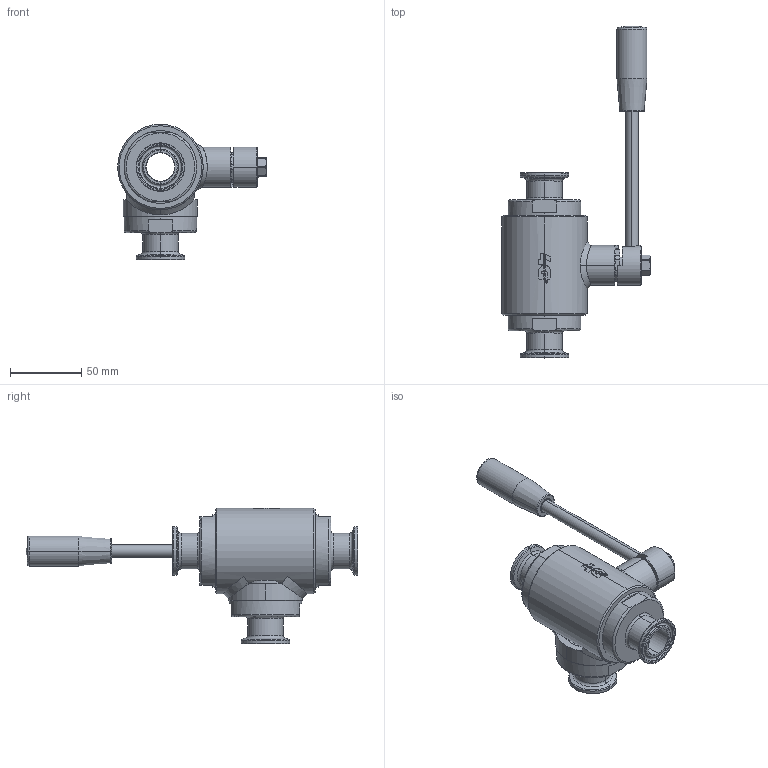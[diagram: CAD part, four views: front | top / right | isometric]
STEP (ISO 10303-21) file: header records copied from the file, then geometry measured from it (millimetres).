
FILE_DESCRIPTION((''),'2;1');
FILE_NAME('30013062010','2018-03-08T',('UFFICIO TECNICO'),('CDM Tecnoconsulting'),'CREO PARAMETRIC BY PTC INC, 2015290','CREO PARAMETRIC BY PTC INC, 2015290','');
FILE_SCHEMA(('CONFIG_CONTROL_DESIGN'));
Length unit declared in the file: millimetre
Products named in the file (1): 30013062010
Bounding box: 104.35 x 233 x 95 mm (x, y, z)
Surface area: 77180.9 mm2 (no closed solid volume)
Topology: 0 solids, 56 shells, 408 faces, 1698 edges, 1328 vertices
Faces by surface type: plane 114, cylinder 103, cone 90, torus 78, bspline 19, sphere 4
Entity records: 23241 total; most frequent: CARTESIAN_POINT 9477, DIRECTION 2588, ORIENTED_EDGE 2472, EDGE_CURVE 1694, VERTEX_POINT 1328, AXIS2_PLACEMENT_3D 928, VECTOR 732, LINE 732
